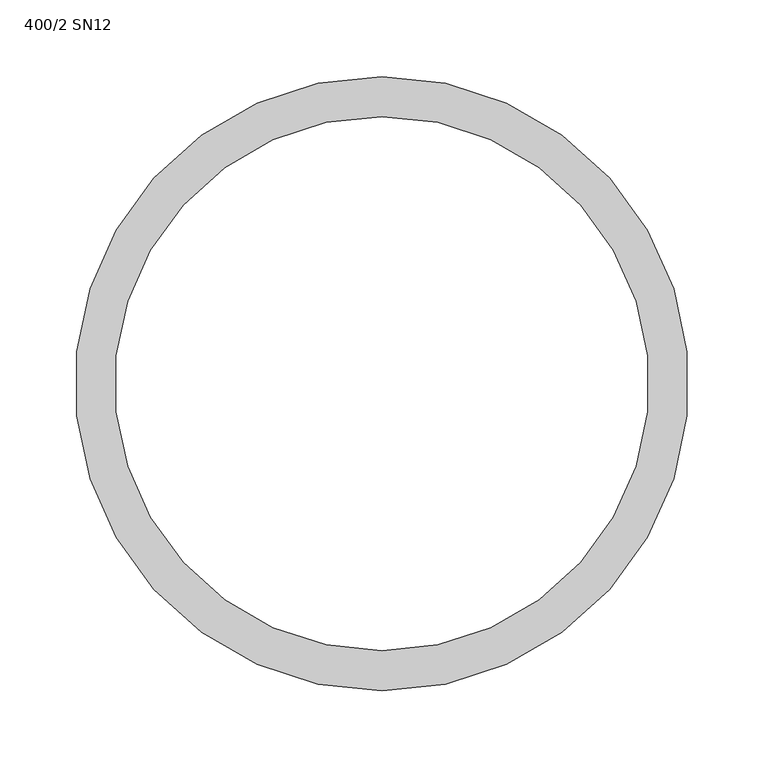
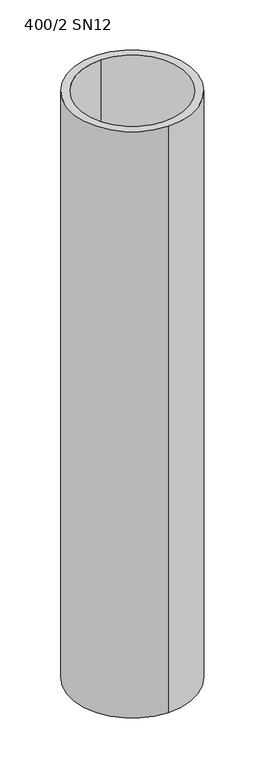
"""IFC4 building model written with IfcOpenShell, lengths in millimetres: valve geometry, Pipelife - Studnia PRO - Rura trzonowa 400 : 400/2 SN12."""

from ifc_helpers import new_model, si_unit, point, origin, origin_with_axes, origin_2d, place, context, project, spatial, circle_curve, trimmed, segment, composite_curve, outline, extrude, source, transform, mapped, element, save


def valve_400_2_sn12_0a42e273(model_context):
    return source(origin(), model_context, "Body", "SweptSolid", [
        extrude(outline(composite_curve([segment(trimmed(circle_curve(origin_2d(), 200.0), [point((0.0, 200.0))], [point((0.0, -200.0))], False, "CARTESIAN"), True, "CONTINUOUS"), segment(trimmed(circle_curve(origin_2d(), 200.0), [point((0.0, -200.0))], [point((0.0, 200.0))], False, "CARTESIAN"), True, "CONTINUOUS")], self_intersect=False), holes=[composite_curve([segment(trimmed(circle_curve(origin_2d(), 174.0), [point((0.0, 174.0))], [point((0.0, -174.0))], True, "CARTESIAN"), True, "CONTINUOUS"), segment(trimmed(circle_curve(origin_2d(), 174.0), [point((0.0, -174.0))], [point((0.0, 174.0))], True, "CARTESIAN"), True, "CONTINUOUS")], self_intersect=False)]), origin_with_axes(), (0.0, 0.0, 1.0), 2000.0),
    ])


if __name__ == "__main__":
    model = new_model("IFC4")
    model_context = context("Model", 3, world=origin())
    ifc_project = project(units=[si_unit("LENGTHUNIT", "METRE", prefix="MILLI")], contexts=[model_context])
    site = spatial("IfcSite", under=ifc_project)
    building = spatial("IfcBuilding", under=site)
    placement = place(None, origin())
    valve_400_2_sn12_shape = valve_400_2_sn12_0a42e273(model_context)
    element("IfcValve", 1, ObjectType="Pipelife - Studnia PRO - Rura trzonowa 400 : 400/2 SN12", at=placement, inside=building, context=model_context, shape_type="MappedRepresentation", body=[
        mapped(valve_400_2_sn12_shape, transform((0.0, 0.0, 0.0), x_axis=(1.0, 0.0, 0.0), y_axis=(0.0, 1.0, 0.0), z_axis=(0.0, 0.0, 1.0))),
    ])
    save(model, "model.ifc")
